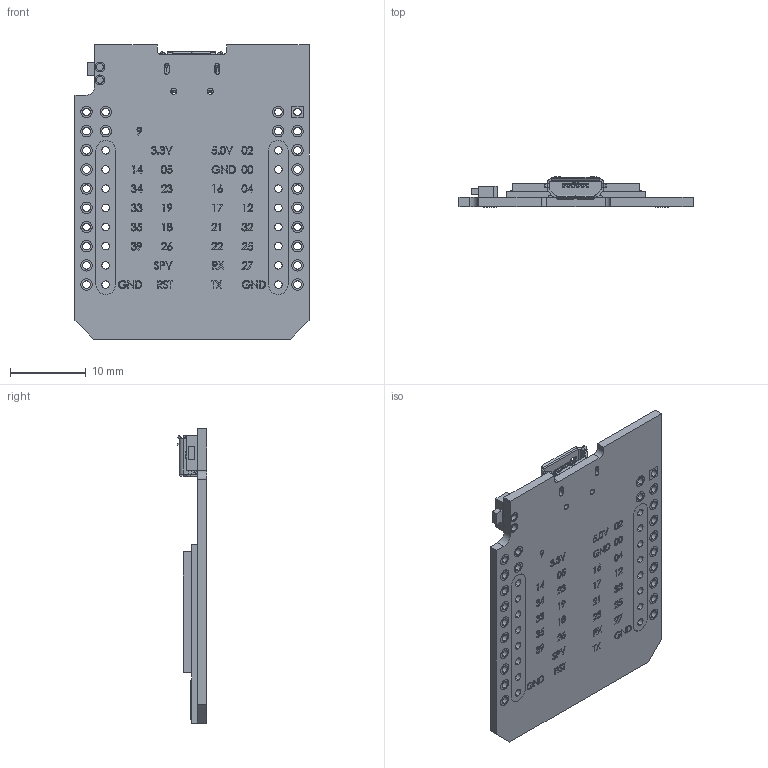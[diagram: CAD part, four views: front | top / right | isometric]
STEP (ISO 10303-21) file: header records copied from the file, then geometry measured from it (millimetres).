
FILE_DESCRIPTION (( 'STEP AP203' ), '1' );
FILE_NAME ('Wemos-Mini-D1-ESP32.STEP', '2021-04-12T21:59:50', ( '' ), ( '' ), 'SwSTEP 2.0', 'SolidWorks 2019', '' );
FILE_SCHEMA (( 'CONFIG_CONTROL_DESIGN' ));
Products named in the file (1): Wemos-Mini-D1-ESP32
Bounding box: 31 x 3.92 x 39 mm (x, y, z)
Volume: 2081.7 mm3; surface area: 3967.9 mm2
Topology: 4 solids, 4 shells, 1696 faces, 4625 edges, 3062 vertices
Faces by surface type: plane 915, bspline 436, cylinder 341, sphere 4
Entity records: 78262 total; most frequent: CARTESIAN_POINT 37394, ORIENTED_EDGE 9246, DIRECTION 6943, EDGE_CURVE 4623, VERTEX_POINT 3062, LINE 3049, VECTOR 3049, EDGE_LOOP 1951
